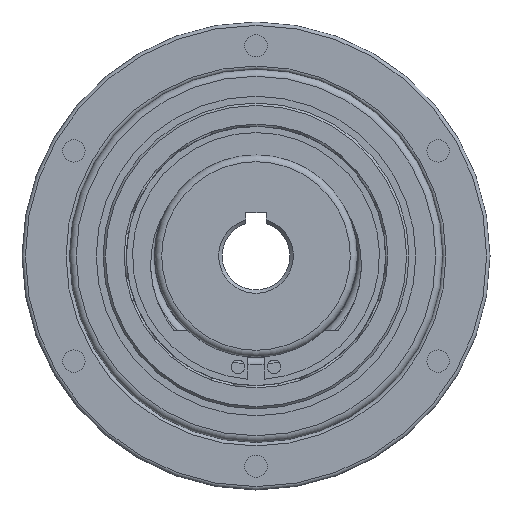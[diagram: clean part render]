
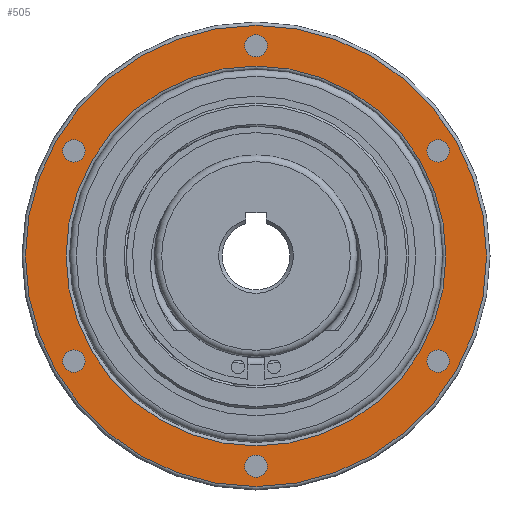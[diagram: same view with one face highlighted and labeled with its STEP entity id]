
A CAD part, left-side view. The second image highlights one B-rep face of the part: STEP entity #505.
In plain terms, the highlighted planar face has unit normal (-1, 0, 0).
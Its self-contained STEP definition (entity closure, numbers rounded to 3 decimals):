
#505 = ADVANCED_FACE( '', ( #1112, #1113, #1114, #1115, #1116, #1117, #1118, #1119 ), #1120, .F. );
#1112 = FACE_OUTER_BOUND( '', #1738, .T. );
#1113 = FACE_BOUND( '', #1739, .T. );
#1114 = FACE_BOUND( '', #1740, .T. );
#1115 = FACE_BOUND( '', #1741, .T. );
#1116 = FACE_BOUND( '', #1742, .T. );
#1117 = FACE_BOUND( '', #1743, .T. );
#1118 = FACE_BOUND( '', #1744, .T. );
#1119 = FACE_BOUND( '', #1745, .T. );
#1120 = PLANE( '', #1746 );
#1738 = EDGE_LOOP( '', ( #3130 ) );
#1739 = EDGE_LOOP( '', ( #3131 ) );
#1740 = EDGE_LOOP( '', ( #3132 ) );
#1741 = EDGE_LOOP( '', ( #3133 ) );
#1742 = EDGE_LOOP( '', ( #3134 ) );
#1743 = EDGE_LOOP( '', ( #3135 ) );
#1744 = EDGE_LOOP( '', ( #3136 ) );
#1745 = EDGE_LOOP( '', ( #3137 ) );
#1746 = AXIS2_PLACEMENT_3D( '', #3138, #3139, #3140 );
#3130 = ORIENTED_EDGE( '', *, *, #3776, .T. );
#3131 = ORIENTED_EDGE( '', *, *, #3457, .T. );
#3132 = ORIENTED_EDGE( '', *, *, #3774, .T. );
#3133 = ORIENTED_EDGE( '', *, *, #3720, .T. );
#3134 = ORIENTED_EDGE( '', *, *, #3783, .T. );
#3135 = ORIENTED_EDGE( '', *, *, #3746, .T. );
#3136 = ORIENTED_EDGE( '', *, *, #3784, .T. );
#3137 = ORIENTED_EDGE( '', *, *, #3342, .T. );
#3138 = CARTESIAN_POINT( '', ( 4.5, 0., 34.5 ) );
#3139 = DIRECTION( '', ( 1., 0., 0. ) );
#3140 = DIRECTION( '', ( 0., 1., 0. ) );
#3342 = EDGE_CURVE( '', #3978, #3978, #3979, .T. );
#3457 = EDGE_CURVE( '', #4171, #4171, #4172, .T. );
#3720 = EDGE_CURVE( '', #4540, #4540, #4541, .T. );
#3746 = EDGE_CURVE( '', #4573, #4573, #4574, .T. );
#3774 = EDGE_CURVE( '', #4601, #4601, #4602, .T. );
#3776 = EDGE_CURVE( '', #4604, #4604, #4605, .T. );
#3783 = EDGE_CURVE( '', #4612, #4612, #4613, .T. );
#3784 = EDGE_CURVE( '', #4614, #4614, #4615, .T. );
#3978 = VERTEX_POINT( '', #5199 );
#3979 = CIRCLE( '', #5200, 1.65 );
#4171 = VERTEX_POINT( '', #5708 );
#4172 = CIRCLE( '', #5709, 28. );
#4540 = VERTEX_POINT( '', #6767 );
#4541 = CIRCLE( '', #6768, 1.65 );
#4573 = VERTEX_POINT( '', #6828 );
#4574 = CIRCLE( '', #6829, 1.65 );
#4601 = VERTEX_POINT( '', #6924 );
#4602 = CIRCLE( '', #6925, 1.65 );
#4604 = VERTEX_POINT( '', #6927 );
#4605 = CIRCLE( '', #6928, 34. );
#4612 = VERTEX_POINT( '', #6936 );
#4613 = CIRCLE( '', #6937, 1.65 );
#4614 = VERTEX_POINT( '', #6938 );
#4615 = CIRCLE( '', #6939, 1.65 );
#5199 = CARTESIAN_POINT( '', ( 4.5, 0., 29.35 ) );
#5200 = AXIS2_PLACEMENT_3D( '', #7078, #7079, #7080 );
#5708 = CARTESIAN_POINT( '', ( 4.5, 0., -28. ) );
#5709 = AXIS2_PLACEMENT_3D( '', #7249, #7250, #7251 );
#6767 = CARTESIAN_POINT( '', ( 4.5, -26.847, -17.15 ) );
#6768 = AXIS2_PLACEMENT_3D( '', #7549, #7550, #7551 );
#6828 = CARTESIAN_POINT( '', ( 4.5, 26.847, -17.15 ) );
#6829 = AXIS2_PLACEMENT_3D( '', #7570, #7571, #7572 );
#6924 = CARTESIAN_POINT( '', ( 4.5, -26.847, 13.85 ) );
#6925 = AXIS2_PLACEMENT_3D( '', #7585, #7586, #7587 );
#6927 = CARTESIAN_POINT( '', ( 4.5, 0., -34. ) );
#6928 = AXIS2_PLACEMENT_3D( '', #7588, #7589, #7590 );
#6936 = CARTESIAN_POINT( '', ( 4.5, 0., -32.65 ) );
#6937 = AXIS2_PLACEMENT_3D( '', #7592, #7593, #7594 );
#6938 = CARTESIAN_POINT( '', ( 4.5, 26.847, 13.85 ) );
#6939 = AXIS2_PLACEMENT_3D( '', #7595, #7596, #7597 );
#7078 = CARTESIAN_POINT( '', ( 4.5, 0., 31. ) );
#7079 = DIRECTION( '', ( 1., 0., 0. ) );
#7080 = DIRECTION( '', ( 0., 0., -1. ) );
#7249 = CARTESIAN_POINT( '', ( 4.5, 0., 0. ) );
#7250 = DIRECTION( '', ( 1., 0., 0. ) );
#7251 = DIRECTION( '', ( 0., 0., -1. ) );
#7549 = CARTESIAN_POINT( '', ( 4.5, -26.847, -15.5 ) );
#7550 = DIRECTION( '', ( 1., 0., 0. ) );
#7551 = DIRECTION( '', ( 0., 0., -1. ) );
#7570 = CARTESIAN_POINT( '', ( 4.5, 26.847, -15.5 ) );
#7571 = DIRECTION( '', ( 1., 0., 0. ) );
#7572 = DIRECTION( '', ( 0., 0., -1. ) );
#7585 = CARTESIAN_POINT( '', ( 4.5, -26.847, 15.5 ) );
#7586 = DIRECTION( '', ( 1., 0., 0. ) );
#7587 = DIRECTION( '', ( 0., 0., -1. ) );
#7588 = CARTESIAN_POINT( '', ( 4.5, 0., 0. ) );
#7589 = DIRECTION( '', ( -1., 0., 0. ) );
#7590 = DIRECTION( '', ( 0., 0., -1. ) );
#7592 = CARTESIAN_POINT( '', ( 4.5, 0., -31. ) );
#7593 = DIRECTION( '', ( 1., 0., 0. ) );
#7594 = DIRECTION( '', ( 0., 0., -1. ) );
#7595 = CARTESIAN_POINT( '', ( 4.5, 26.847, 15.5 ) );
#7596 = DIRECTION( '', ( 1., 0., 0. ) );
#7597 = DIRECTION( '', ( 0., 0., -1. ) );
